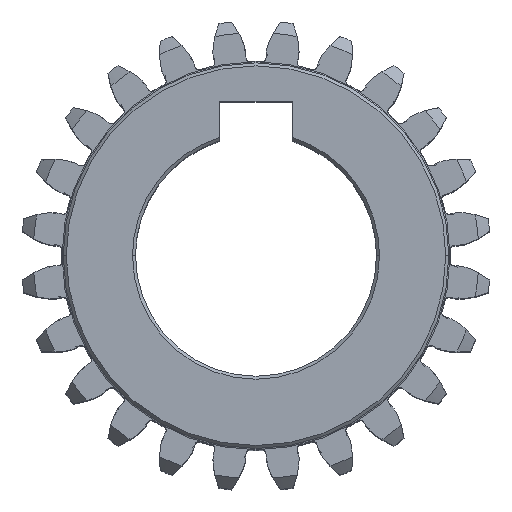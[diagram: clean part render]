
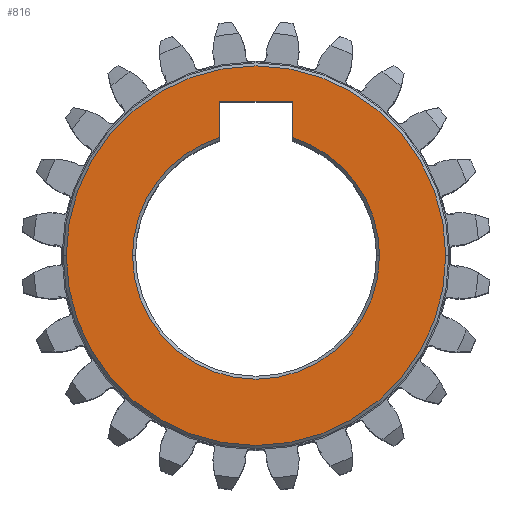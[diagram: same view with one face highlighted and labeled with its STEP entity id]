
A CAD part, top view. The second image highlights one B-rep face of the part: STEP entity #816.
In plain terms, the highlighted planar face has unit normal (0, 0, 1).
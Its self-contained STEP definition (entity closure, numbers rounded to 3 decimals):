
#134 = CARTESIAN_POINT ( 'NONE',  ( -3., 9.801, 15. ) ) ;
#796 = CIRCLE ( 'NONE', #2914, 10.25 ) ;
#816 = ADVANCED_FACE ( 'NONE', ( #7121, #12694 ), #8312, .T. ) ;
#901 = DIRECTION ( 'NONE',  ( 0., -1., 0. ) ) ;
#1100 = CARTESIAN_POINT ( 'NONE',  ( 3., 12.8, 15. ) ) ;
#1376 = ORIENTED_EDGE ( 'NONE', *, *, #12449, .T. ) ;
#1597 = AXIS2_PLACEMENT_3D ( 'NONE', #9348, #9637, #12688 ) ;
#1755 = VECTOR ( 'NONE', #4619, 1000. ) ;
#2006 = CARTESIAN_POINT ( 'NONE',  ( -3., 7.2, 15. ) ) ;
#2336 = VERTEX_POINT ( 'NONE', #134 ) ;
#2388 = CARTESIAN_POINT ( 'NONE',  ( 3., 12.8, 15. ) ) ;
#2439 = CARTESIAN_POINT ( 'NONE',  ( 0., 0., 15. ) ) ;
#2914 = AXIS2_PLACEMENT_3D ( 'NONE', #4203, #3017, #7548 ) ;
#3017 = DIRECTION ( 'NONE',  ( 0., 0., -1. ) ) ;
#3398 = EDGE_CURVE ( 'NONE', #5593, #5544, #10057, .T. ) ;
#4203 = CARTESIAN_POINT ( 'NONE',  ( 0., 0., 15. ) ) ;
#4619 = DIRECTION ( 'NONE',  ( 1., 0., 0. ) ) ;
#4630 = DIRECTION ( 'NONE',  ( 0., 0., 1. ) ) ;
#4657 = EDGE_CURVE ( 'NONE', #5544, #5593, #7197, .T. ) ;
#4869 = AXIS2_PLACEMENT_3D ( 'NONE', #2439, #12770, #7199 ) ;
#4932 = CARTESIAN_POINT ( 'NONE',  ( -15.75, 0., 15. ) ) ;
#5185 = EDGE_CURVE ( 'NONE', #12780, #13236, #10280, .T. ) ;
#5329 = EDGE_LOOP ( 'NONE', ( #7987, #6813 ) ) ;
#5464 = EDGE_CURVE ( 'NONE', #13550, #13751, #11020, .T. ) ;
#5544 = VERTEX_POINT ( 'NONE', #4932 ) ;
#5593 = VERTEX_POINT ( 'NONE', #10954 ) ;
#5849 = CIRCLE ( 'NONE', #1597, 10.25 ) ;
#5900 = CARTESIAN_POINT ( 'NONE',  ( -10.25, 0., 15. ) ) ;
#6177 = ORIENTED_EDGE ( 'NONE', *, *, #5464, .T. ) ;
#6321 = CARTESIAN_POINT ( 'NONE',  ( 3., 7.2, 15. ) ) ;
#6631 = CARTESIAN_POINT ( 'NONE',  ( 3., 9.801, 15. ) ) ;
#6813 = ORIENTED_EDGE ( 'NONE', *, *, #3398, .T. ) ;
#7121 = FACE_OUTER_BOUND ( 'NONE', #5329, .T. ) ;
#7197 = CIRCLE ( 'NONE', #9331, 15.75 ) ;
#7199 = DIRECTION ( 'NONE',  ( 1., 0., 0. ) ) ;
#7242 = EDGE_LOOP ( 'NONE', ( #12673, #6177, #1376, #9346, #10388, #13032 ) ) ;
#7425 = DIRECTION ( 'NONE',  ( 1., 0., 0. ) ) ;
#7548 = DIRECTION ( 'NONE',  ( 1., 0., 0. ) ) ;
#7576 = LINE ( 'NONE', #2006, #14467 ) ;
#7987 = ORIENTED_EDGE ( 'NONE', *, *, #4657, .T. ) ;
#8104 = CARTESIAN_POINT ( 'NONE',  ( 0., 0., 15. ) ) ;
#8312 = PLANE ( 'NONE',  #4869 ) ;
#8642 = CARTESIAN_POINT ( 'NONE',  ( -3., 12.8, 15. ) ) ;
#8696 = CARTESIAN_POINT ( 'NONE',  ( 10.25, 0., 15. ) ) ;
#8828 = VECTOR ( 'NONE', #901, 1000. ) ;
#9166 = DIRECTION ( 'NONE',  ( 1., 0., 0. ) ) ;
#9331 = AXIS2_PLACEMENT_3D ( 'NONE', #8104, #10857, #7425 ) ;
#9346 = ORIENTED_EDGE ( 'NONE', *, *, #14267, .T. ) ;
#9348 = CARTESIAN_POINT ( 'NONE',  ( 0., 0., 15. ) ) ;
#9459 = VERTEX_POINT ( 'NONE', #5900 ) ;
#9474 = CARTESIAN_POINT ( 'NONE',  ( 0., 0., 15. ) ) ;
#9630 = DIRECTION ( 'NONE',  ( 1., 0., 0. ) ) ;
#9637 = DIRECTION ( 'NONE',  ( 0., 0., -1. ) ) ;
#10057 = CIRCLE ( 'NONE', #13139, 15.75 ) ;
#10280 = LINE ( 'NONE', #2388, #1755 ) ;
#10388 = ORIENTED_EDGE ( 'NONE', *, *, #13112, .T. ) ;
#10857 = DIRECTION ( 'NONE',  ( 0., 0., 1. ) ) ;
#10954 = CARTESIAN_POINT ( 'NONE',  ( 15.75, 0., 15. ) ) ;
#11020 = CIRCLE ( 'NONE', #13143, 10.25 ) ;
#12449 = EDGE_CURVE ( 'NONE', #13751, #9459, #5849, .T. ) ;
#12580 = CARTESIAN_POINT ( 'NONE',  ( 0., 0., 15. ) ) ;
#12673 = ORIENTED_EDGE ( 'NONE', *, *, #13730, .T. ) ;
#12688 = DIRECTION ( 'NONE',  ( 1., 0., 0. ) ) ;
#12694 = FACE_BOUND ( 'NONE', #7242, .T. ) ;
#12770 = DIRECTION ( 'NONE',  ( 0., 0., 1. ) ) ;
#12780 = VERTEX_POINT ( 'NONE', #8642 ) ;
#13032 = ORIENTED_EDGE ( 'NONE', *, *, #5185, .T. ) ;
#13112 = EDGE_CURVE ( 'NONE', #2336, #12780, #7576, .T. ) ;
#13139 = AXIS2_PLACEMENT_3D ( 'NONE', #12580, #4630, #9166 ) ;
#13143 = AXIS2_PLACEMENT_3D ( 'NONE', #9474, #13906, #9630 ) ;
#13236 = VERTEX_POINT ( 'NONE', #1100 ) ;
#13412 = LINE ( 'NONE', #6321, #8828 ) ;
#13550 = VERTEX_POINT ( 'NONE', #6631 ) ;
#13730 = EDGE_CURVE ( 'NONE', #13236, #13550, #13412, .T. ) ;
#13751 = VERTEX_POINT ( 'NONE', #8696 ) ;
#13906 = DIRECTION ( 'NONE',  ( 0., 0., -1. ) ) ;
#14267 = EDGE_CURVE ( 'NONE', #9459, #2336, #796, .T. ) ;
#14382 = DIRECTION ( 'NONE',  ( 0., 1., 0. ) ) ;
#14467 = VECTOR ( 'NONE', #14382, 1000. ) ;
